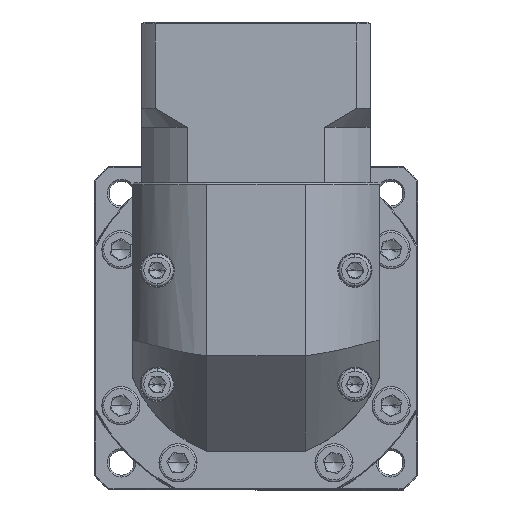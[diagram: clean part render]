
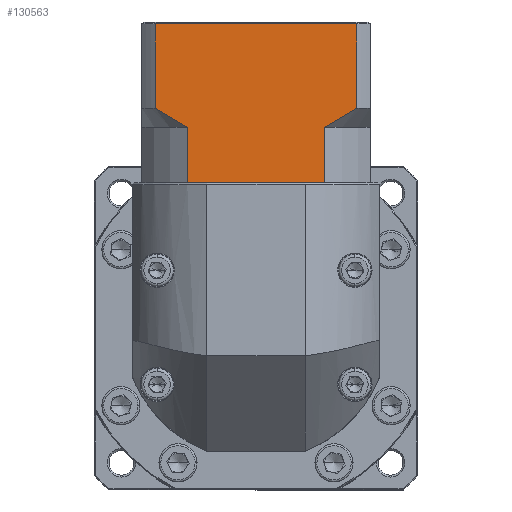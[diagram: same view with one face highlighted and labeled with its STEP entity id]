
A CAD part, top view. The second image highlights one B-rep face of the part: STEP entity #130563.
In plain terms, the highlighted planar face has unit normal (0, 0, 1).
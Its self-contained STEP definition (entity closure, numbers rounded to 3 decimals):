
#471 = VERTEX_POINT ( 'NONE', #28637 ) ;
#677 = LINE ( 'NONE', #23268, #96904 ) ;
#723 = LINE ( 'NONE', #64233, #51398 ) ;
#1502 = CARTESIAN_POINT ( 'NONE',  ( -20.927, 89.235, 16.273 ) ) ;
#1508 = DIRECTION ( 'NONE',  ( 0., 1., 0. ) ) ;
#2334 = EDGE_CURVE ( 'NONE', #51129, #134712, #12350, .T. ) ;
#2887 = CARTESIAN_POINT ( 'NONE',  ( -77.385, 116.935, 16.273 ) ) ;
#3815 = FACE_OUTER_BOUND ( 'NONE', #36303, .T. ) ;
#4147 = VERTEX_POINT ( 'NONE', #88420 ) ;
#4641 = CARTESIAN_POINT ( 'NONE',  ( -65.413, 89.235, 16.273 ) ) ;
#5554 = CARTESIAN_POINT ( 'NONE',  ( -66.865, 89.983, 16.273 ) ) ;
#9683 = VECTOR ( 'NONE', #59073, 1000. ) ;
#11856 = PLANE ( 'NONE',  #14970 ) ;
#12350 = B_SPLINE_CURVE_WITH_KNOTS ( 'NONE', 3,
 ( #139553, #95925, #108122, #75140, #118924, #84653 ),
 .UNSPECIFIED., .F., .F.,
 ( 4, 2, 4 ),
 ( 0.1, 0.104, 0.109 ),
 .UNSPECIFIED. ) ;
#12984 = LINE ( 'NONE', #17773, #33184 ) ;
#14970 = AXIS2_PLACEMENT_3D ( 'NONE', #2887, #108985, #1508 ) ;
#15480 = CARTESIAN_POINT ( 'NONE',  ( -72.482, 93.336, 16.273 ) ) ;
#17115 = CARTESIAN_POINT ( 'NONE',  ( -77.385, 116.435, 16.273 ) ) ;
#17773 = CARTESIAN_POINT ( 'NONE',  ( -73.842, 89.235, 16.273 ) ) ;
#18033 = VERTEX_POINT ( 'NONE', #23499 ) ;
#22409 = EDGE_CURVE ( 'NONE', #4147, #132526, #135999, .T. ) ;
#23268 = CARTESIAN_POINT ( 'NONE',  ( -77.385, 74.735, 16.273 ) ) ;
#23499 = CARTESIAN_POINT ( 'NONE',  ( -30.348, 74.735, 16.273 ) ) ;
#25750 = CARTESIAN_POINT ( 'NONE',  ( -20.927, 94.235, 16.273 ) ) ;
#26333 = CARTESIAN_POINT ( 'NONE',  ( -29.357, 74.735, 16.273 ) ) ;
#27749 = CARTESIAN_POINT ( 'NONE',  ( -73.842, 94.235, 16.273 ) ) ;
#28637 = CARTESIAN_POINT ( 'NONE',  ( -73.842, 94.235, 16.273 ) ) ;
#31160 = LINE ( 'NONE', #39236, #108633 ) ;
#33184 = VECTOR ( 'NONE', #136816, 1000. ) ;
#36303 = EDGE_LOOP ( 'NONE', ( #76533, #76462, #51630, #96657, #75808, #90324, #39596, #83118, #116782, #85581 ) ) ;
#36886 = EDGE_CURVE ( 'NONE', #51129, #57188, #723, .T. ) ;
#37894 = DIRECTION ( 'NONE',  ( 0., 1., 0. ) ) ;
#39236 = CARTESIAN_POINT ( 'NONE',  ( -77.385, 74.735, 16.273 ) ) ;
#39596 = ORIENTED_EDGE ( 'NONE', *, *, #55039, .T. ) ;
#42951 = CARTESIAN_POINT ( 'NONE',  ( -64.422, 74.735, 16.273 ) ) ;
#46059 = EDGE_CURVE ( 'NONE', #131489, #138620, #677, .T. ) ;
#51129 = VERTEX_POINT ( 'NONE', #59094 ) ;
#51248 = CARTESIAN_POINT ( 'NONE',  ( -65.413, 74.735, 16.273 ) ) ;
#51398 = VECTOR ( 'NONE', #87814, 1000. ) ;
#51630 = ORIENTED_EDGE ( 'NONE', *, *, #64218, .F. ) ;
#55039 = EDGE_CURVE ( 'NONE', #138620, #18033, #31160, .T. ) ;
#55693 = VECTOR ( 'NONE', #103549, 1000. ) ;
#57188 = VERTEX_POINT ( 'NONE', #26333 ) ;
#58643 = CARTESIAN_POINT ( 'NONE',  ( -65.413, 89.235, 16.273 ) ) ;
#59073 = DIRECTION ( 'NONE',  ( -1., 0., 0. ) ) ;
#59094 = CARTESIAN_POINT ( 'NONE',  ( -29.357, 89.235, 16.273 ) ) ;
#59756 = CARTESIAN_POINT ( 'NONE',  ( -68.296, 90.786, 16.273 ) ) ;
#64218 = EDGE_CURVE ( 'NONE', #471, #132526, #12984, .T. ) ;
#64233 = CARTESIAN_POINT ( 'NONE',  ( -29.357, 89.235, 16.273 ) ) ;
#73241 = VERTEX_POINT ( 'NONE', #73364 ) ;
#73364 = CARTESIAN_POINT ( 'NONE',  ( -65.413, 89.235, 16.273 ) ) ;
#75140 = CARTESIAN_POINT ( 'NONE',  ( -23.67, 92.46, 16.273 ) ) ;
#75808 = ORIENTED_EDGE ( 'NONE', *, *, #138248, .F. ) ;
#76462 = ORIENTED_EDGE ( 'NONE', *, *, #22409, .T. ) ;
#76533 = ORIENTED_EDGE ( 'NONE', *, *, #123659, .F. ) ;
#76666 = EDGE_CURVE ( 'NONE', #18033, #57188, #121687, .T. ) ;
#83118 = ORIENTED_EDGE ( 'NONE', *, *, #76666, .T. ) ;
#84653 = CARTESIAN_POINT ( 'NONE',  ( -20.927, 94.235, 16.273 ) ) ;
#85581 = ORIENTED_EDGE ( 'NONE', *, *, #2334, .T. ) ;
#86133 = LINE ( 'NONE', #1502, #55693 ) ;
#87814 = DIRECTION ( 'NONE',  ( 0., -1., 0. ) ) ;
#88420 = CARTESIAN_POINT ( 'NONE',  ( -20.927, 116.435, 16.273 ) ) ;
#88835 = CARTESIAN_POINT ( 'NONE',  ( -73.842, 116.435, 16.273 ) ) ;
#90324 = ORIENTED_EDGE ( 'NONE', *, *, #46059, .T. ) ;
#95925 = CARTESIAN_POINT ( 'NONE',  ( -27.901, 89.985, 16.273 ) ) ;
#96657 = ORIENTED_EDGE ( 'NONE', *, *, #129438, .T. ) ;
#96904 = VECTOR ( 'NONE', #120305, 1000. ) ;
#103549 = DIRECTION ( 'NONE',  ( 0., -1., 0. ) ) ;
#108122 = CARTESIAN_POINT ( 'NONE',  ( -26.475, 90.786, 16.273 ) ) ;
#108333 = LINE ( 'NONE', #58643, #133507 ) ;
#108633 = VECTOR ( 'NONE', #123081, 1000. ) ;
#108985 = DIRECTION ( 'NONE',  ( 0., 0., -1. ) ) ;
#110641 = CARTESIAN_POINT ( 'NONE',  ( -77.385, 74.735, 16.273 ) ) ;
#116782 = ORIENTED_EDGE ( 'NONE', *, *, #36886, .F. ) ;
#118924 = CARTESIAN_POINT ( 'NONE',  ( -22.29, 93.334, 16.273 ) ) ;
#120305 = DIRECTION ( 'NONE',  ( 1., 0., 0. ) ) ;
#121687 = LINE ( 'NONE', #110641, #133531 ) ;
#122107 = B_SPLINE_CURVE_WITH_KNOTS ( 'NONE', 3,
 ( #27749, #15480, #124702, #59756, #5554, #4641 ),
 .UNSPECIFIED., .F., .F.,
 ( 4, 2, 4 ),
 ( 0.052, 0.057, 0.062 ),
 .UNSPECIFIED. ) ;
#123081 = DIRECTION ( 'NONE',  ( 1., 0., 0. ) ) ;
#123659 = EDGE_CURVE ( 'NONE', #4147, #134712, #86133, .T. ) ;
#124702 = CARTESIAN_POINT ( 'NONE',  ( -71.104, 92.462, 16.273 ) ) ;
#129438 = EDGE_CURVE ( 'NONE', #471, #73241, #122107, .T. ) ;
#130563 = ADVANCED_FACE ( 'NONE', ( #3815 ), #11856, .F. ) ;
#131489 = VERTEX_POINT ( 'NONE', #51248 ) ;
#132526 = VERTEX_POINT ( 'NONE', #88835 ) ;
#132688 = DIRECTION ( 'NONE',  ( 1., 0., 0. ) ) ;
#133507 = VECTOR ( 'NONE', #37894, 1000. ) ;
#133531 = VECTOR ( 'NONE', #132688, 1000. ) ;
#134712 = VERTEX_POINT ( 'NONE', #25750 ) ;
#135999 = LINE ( 'NONE', #17115, #9683 ) ;
#136816 = DIRECTION ( 'NONE',  ( 0., 1., 0. ) ) ;
#138248 = EDGE_CURVE ( 'NONE', #131489, #73241, #108333, .T. ) ;
#138620 = VERTEX_POINT ( 'NONE', #42951 ) ;
#139553 = CARTESIAN_POINT ( 'NONE',  ( -29.357, 89.235, 16.273 ) ) ;
